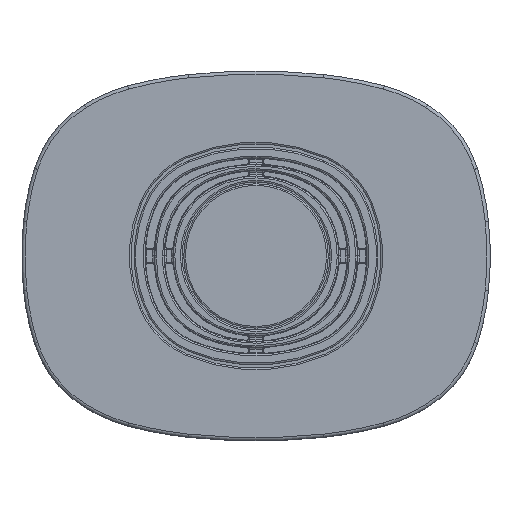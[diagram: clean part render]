
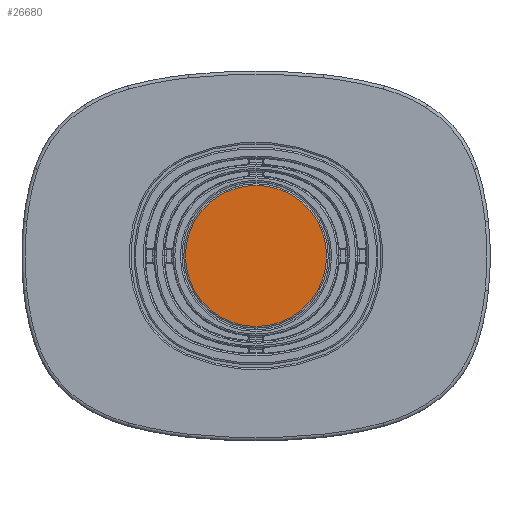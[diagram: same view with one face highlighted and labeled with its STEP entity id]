
A CAD part, top view. The second image highlights one B-rep face of the part: STEP entity #26680.
In plain terms, the highlighted planar face has unit normal (0, 0, 1).
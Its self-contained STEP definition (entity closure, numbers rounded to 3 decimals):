
#2350=CIRCLE('',#33494,86.2);
#6324=ORIENTED_EDGE('',*,*,#13607,.T.);
#13607=EDGE_CURVE('',#17370,#17370,#2350,.T.);
#17370=VERTEX_POINT('',#49165);
#22726=EDGE_LOOP('',(#6324));
#24492=FACE_BOUND('',#22726,.T.);
#25917=PLANE('',#33493);
#26680=ADVANCED_FACE('',(#24492),#25917,.T.);
#33493=AXIS2_PLACEMENT_3D('',#49163,#37866,#37867);
#33494=AXIS2_PLACEMENT_3D('',#49164,#37868,#37869);
#37866=DIRECTION('',(0.,0.,1.));
#37867=DIRECTION('',(1.,0.,0.));
#37868=DIRECTION('',(0.,0.,1.));
#37869=DIRECTION('',(1.,0.,0.));
#49163=CARTESIAN_POINT('',(-14.985,123.28,859.51));
#49164=CARTESIAN_POINT('',(0.,135.025,859.51));
#49165=CARTESIAN_POINT('',(86.2,135.025,859.51));
